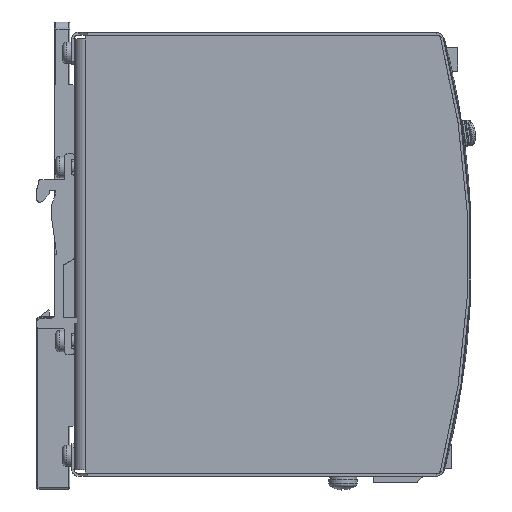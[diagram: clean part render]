
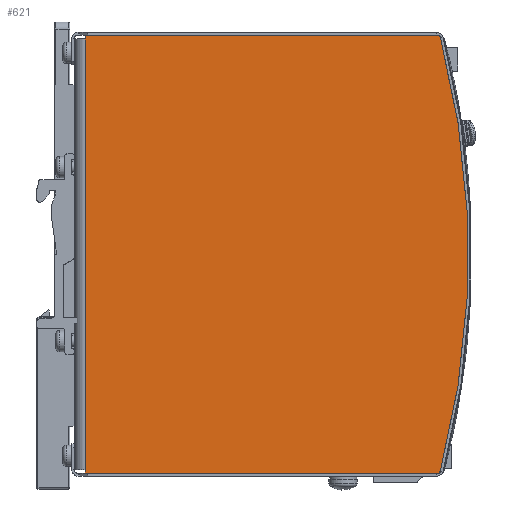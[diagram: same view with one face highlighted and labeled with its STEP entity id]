
A CAD part, front view. The second image highlights one B-rep face of the part: STEP entity #621.
In plain terms, the highlighted planar face has unit normal (0, -1, 0) as drawn and (-1, 0, 0) by its records, which use the part's own axes.
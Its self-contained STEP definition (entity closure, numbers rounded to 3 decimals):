
#396=CARTESIAN_POINT('',(-10.,-92.3,3.));
#397=VERTEX_POINT('',#396);
#405=CARTESIAN_POINT('',(-10.,28.,3.));
#406=VERTEX_POINT('',#405);
#407=CARTESIAN_POINT('',(-10.,-92.3,3.));
#408=DIRECTION('',(0.0,1.0,0.0));
#409=VECTOR('',#408,120.3);
#410=LINE('',#407,#409);
#411=EDGE_CURVE('',#397,#406,#410,.T.);
#556=CARTESIAN_POINT('',(-10.,-45.974,39.476));
#557=DIRECTION('',(1.0,0.0,0.0));
#558=DIRECTION('',(0.0,0.0,-1.0));
#559=AXIS2_PLACEMENT_3D('',#556,#557,#558);
#560=PLANE('',#559);
#561=ORIENTED_EDGE('',*,*,#411,.F.);
#562=CARTESIAN_POINT('',(-10.,-93.3,3.));
#563=VERTEX_POINT('',#562);
#564=CARTESIAN_POINT('',(-10.,-93.3,3.));
#565=DIRECTION('',(0.0,1.0,0.0));
#566=VECTOR('',#565,1.);
#567=LINE('',#564,#566);
#568=EDGE_CURVE('',#563,#397,#567,.T.);
#569=ORIENTED_EDGE('',*,*,#568,.F.);
#570=CARTESIAN_POINT('',(-10.,-93.3,101.693));
#571=VERTEX_POINT('',#570);
#572=CARTESIAN_POINT('',(-10.,-93.3,101.693));
#573=DIRECTION('',(0.0,0.0,-1.0));
#574=VECTOR('',#573,98.693);
#575=LINE('',#572,#574);
#576=EDGE_CURVE('',#571,#563,#575,.T.);
#577=ORIENTED_EDGE('',*,*,#576,.F.);
#578=CARTESIAN_POINT('',(-10.,-92.927,102.177));
#579=VERTEX_POINT('',#578);
#580=CARTESIAN_POINT('',(-10.,-92.8,101.693));
#581=DIRECTION('',(1.0,0.0,0.0));
#582=DIRECTION('',(0.0,0.0,-1.0));
#583=AXIS2_PLACEMENT_3D('',#580,#581,#582);
#584=CIRCLE('',#583,0.5);
#585=EDGE_CURVE('',#579,#571,#584,.T.);
#586=ORIENTED_EDGE('',*,*,#585,.F.);
#587=CARTESIAN_POINT('',(-10.0,28.627,102.177));
#588=VERTEX_POINT('',#587);
#589=CARTESIAN_POINT('',(-10.0,-32.15,-130.0));
#590=DIRECTION('',(1.0,0.0,0.0));
#591=DIRECTION('',(0.0,0.0,-1.0));
#592=AXIS2_PLACEMENT_3D('',#589,#590,#591);
#593=CIRCLE('',#592,240.0);
#594=EDGE_CURVE('',#588,#579,#593,.T.);
#595=ORIENTED_EDGE('',*,*,#594,.F.);
#596=CARTESIAN_POINT('',(-10.0,29.,101.693));
#597=VERTEX_POINT('',#596);
#598=CARTESIAN_POINT('',(-10.0,28.5,101.693));
#599=DIRECTION('',(1.0,0.0,0.0));
#600=DIRECTION('',(0.0,0.0,-1.0));
#601=AXIS2_PLACEMENT_3D('',#598,#599,#600);
#602=CIRCLE('',#601,0.5);
#603=EDGE_CURVE('',#597,#588,#602,.T.);
#604=ORIENTED_EDGE('',*,*,#603,.F.);
#605=CARTESIAN_POINT('',(-10.,29.,3.));
#606=VERTEX_POINT('',#605);
#607=CARTESIAN_POINT('',(-10.,29.,3.));
#608=DIRECTION('',(0.0,0.0,1.0));
#609=VECTOR('',#608,98.693);
#610=LINE('',#607,#609);
#611=EDGE_CURVE('',#606,#597,#610,.T.);
#612=ORIENTED_EDGE('',*,*,#611,.F.);
#613=CARTESIAN_POINT('',(-10.,28.,3.));
#614=DIRECTION('',(0.0,1.0,0.0));
#615=VECTOR('',#614,1.0);
#616=LINE('',#613,#615);
#617=EDGE_CURVE('',#406,#606,#616,.T.);
#618=ORIENTED_EDGE('',*,*,#617,.F.);
#619=EDGE_LOOP('',(#561,#569,#577,#586,#595,#604,#612,#618));
#620=FACE_OUTER_BOUND('',#619,.T.);
#621=ADVANCED_FACE('',(#620),#560,.F.);
